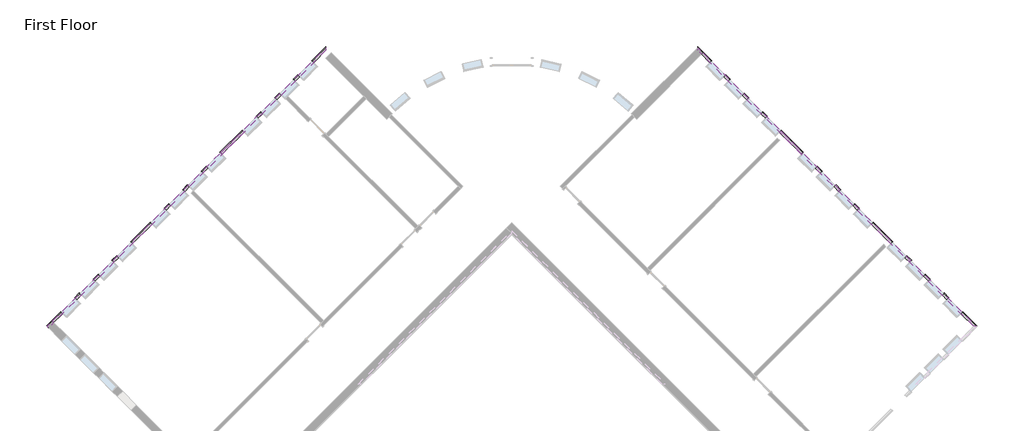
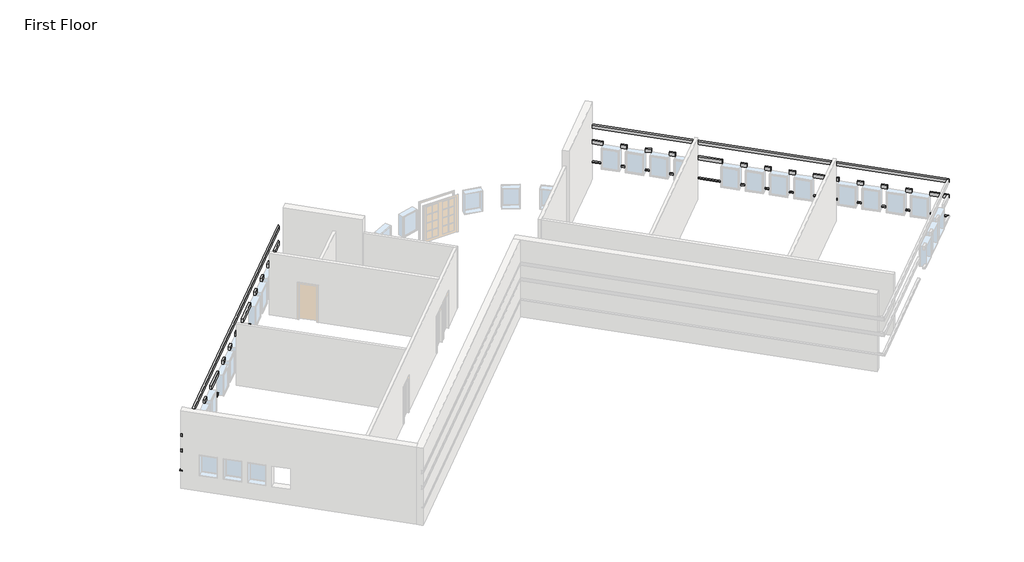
# One storey, part 3 of 3: 6 proxies.
"""IFC4 building model written with IfcOpenShell, lengths in millimetres."""

from ifc_helpers import new_model, si_unit, origin, place, context, project, spatial, faceted_brep, element, save

model = new_model("IFC4")

# Units and contexts
model_context = context("Model", 3, world=origin())
ifc_project = project(units=[si_unit("LENGTHUNIT", "METRE", prefix="MILLI")], contexts=[model_context])

# Site, building, storey
site = spatial("IfcSite", under=ifc_project)
building = spatial("IfcBuilding", under=site)
storey = spatial("IfcBuildingStorey", under=building, Name="First Floor", Elevation=0.0)

# Proxies
placement = place(None, origin())
element("IfcBuildingElementProxy", 1, Name="Wall Sweeps", at=placement, inside=storey, context=model_context, shape_type="Brep", body=[
    faceted_brep([(5753.0175119, 11443.3655905, 1085.85), (5753.0175119, 11573.5793042, 1085.85), (5753.0175119, 11622.9707129, 1041.4), (5753.0175119, 11622.9707129, 1016.0), (5753.0175119, 11443.3655905, 1016.0), (6317.415551, 10878.9675514, 1085.85), (6317.415551, 10878.9675514, 1016.0), (6382.5224079, 10944.0744083, 1016.0), (6407.2181122, 10968.7701126, 1016.0), (6407.2181122, 10968.7701126, 1041.4), (6382.5224079, 10944.0744083, 1085.85), (5937.1127624, 11259.27034, 1085.85), (5937.1127624, 11259.27034, 1016.0)], [[[0, 1, 2, 3, 4]], [[5, 6, 7, 8, 9, 10]], [[1, 0, 11, 5, 10]], [[2, 1, 10, 9]], [[3, 2, 9, 8]], [[4, 3, 8, 7, 6, 12]], [[0, 4, 12, 6, 5, 11]]]),
    faceted_brep([(6963.9939917, 10232.3891107, 1085.85), (7029.1008486, 10297.4959676, 1085.85), (7053.7965529, 10322.1916719, 1041.4), (7053.7965529, 10322.1916719, 1016.0), (7029.1008486, 10297.4959676, 1016.0), (6963.9939917, 10232.3891107, 1016.0), (7179.5201386, 10016.8629638, 1085.85), (7179.5201386, 10016.8629638, 1016.0), (7244.6269955, 10081.9698207, 1016.0), (7269.3226998, 10106.665525, 1016.0), (7269.3226998, 10106.665525, 1041.4), (7244.6269955, 10081.9698207, 1085.85)], [[[0, 1, 2, 3, 4, 5]], [[6, 7, 8, 9, 10, 11]], [[1, 0, 6, 11]], [[2, 1, 11, 10]], [[3, 2, 10, 9]], [[5, 4, 3, 9, 8, 7]], [[0, 5, 7, 6]]]),
    faceted_brep([(7826.0985793, 9370.2845231, 1085.85), (7891.2054362, 9435.39138, 1085.85), (7915.9011405, 9460.0870843, 1041.4), (7915.9011405, 9460.0870843, 1016.0), (7891.2054362, 9435.39138, 1016.0), (7826.0985793, 9370.2845231, 1016.0), (8041.6247262, 9154.7583762, 1085.85), (8041.6247262, 9154.7583762, 1016.0), (8106.7315831, 9219.8652331, 1016.0), (8131.4272874, 9244.5609374, 1016.0), (8131.4272874, 9244.5609374, 1041.4), (8106.7315831, 9219.8652331, 1085.85)], [[[0, 1, 2, 3, 4, 5]], [[6, 7, 8, 9, 10, 11]], [[1, 0, 6, 11]], [[2, 1, 11, 10]], [[3, 2, 10, 9]], [[5, 4, 3, 9, 8, 7]], [[0, 5, 7, 6]]]),
    faceted_brep([(8688.2031669, 8508.1799355, 1085.85), (8753.3100238, 8573.2867923, 1085.85), (8778.0057282, 8597.9824967, 1041.4), (8778.0057282, 8597.9824967, 1016.0), (8753.3100238, 8573.2867923, 1016.0), (8688.2031669, 8508.1799355, 1016.0), (8903.7293139, 8292.6537886, 1085.85), (8903.7293139, 8292.6537886, 1016.0), (8968.8361707, 8357.7606454, 1016.0), (8993.5318751, 8382.4563498, 1016.0), (8993.5318751, 8382.4563498, 1041.4), (8968.8361707, 8357.7606454, 1085.85)], [[[0, 1, 2, 3, 4, 5]], [[6, 7, 8, 9, 10, 11]], [[1, 0, 6, 11]], [[2, 1, 11, 10]], [[3, 2, 10, 9]], [[5, 4, 3, 9, 8, 7]], [[0, 5, 7, 6]]]),
    faceted_brep([(9550.3077546, 7646.0753478, 1085.85), (9615.4146114, 7711.1822047, 1085.85), (9640.1103158, 7735.877909, 1041.4), (9640.1103158, 7735.877909, 1016.0), (9615.4146114, 7711.1822047, 1016.0), (9550.3077546, 7646.0753478, 1016.0), (10574.7639411, 6621.6191613, 1085.85), (10574.7639411, 6621.6191613, 1016.0), (10639.870798, 6686.7260182, 1016.0), (10664.5665023, 6711.4217225, 1016.0), (10664.5665023, 6711.4217225, 1041.4), (10639.870798, 6686.7260182, 1085.85)], [[[0, 1, 2, 3, 4, 5]], [[6, 7, 8, 9, 10, 11]], [[1, 0, 6, 11]], [[2, 1, 11, 10]], [[3, 2, 10, 9]], [[5, 4, 3, 9, 8, 7]], [[0, 5, 7, 6]]]),
    faceted_brep([(11221.3423818, 5975.0407206, 1085.85), (11286.4492387, 6040.1475775, 1085.85), (11311.144943, 6064.8432818, 1041.4), (11311.144943, 6064.8432818, 1016.0), (11286.4492387, 6040.1475775, 1016.0), (11221.3423818, 5975.0407206, 1016.0), (11436.8685287, 5759.5145737, 1085.85), (11436.8685287, 5759.5145737, 1016.0), (11501.9753856, 5824.6214306, 1016.0), (11526.6710899, 5849.3171349, 1016.0), (11526.6710899, 5849.3171349, 1041.4), (11501.9753856, 5824.6214306, 1085.85)], [[[0, 1, 2, 3, 4, 5]], [[6, 7, 8, 9, 10, 11]], [[1, 0, 6, 11]], [[2, 1, 11, 10]], [[3, 2, 10, 9]], [[5, 4, 3, 9, 8, 7]], [[0, 5, 7, 6]]]),
    faceted_brep([(12083.4469694, 5112.936133, 1085.85), (12148.5538263, 5178.0429899, 1085.85), (12173.2495306, 5202.7386942, 1041.4), (12173.2495306, 5202.7386942, 1016.0), (12148.5538263, 5178.0429899, 1016.0), (12083.4469694, 5112.936133, 1016.0), (12298.9731163, 4897.4099861, 1085.85), (12298.9731163, 4897.4099861, 1016.0), (12364.0799732, 4962.516843, 1016.0), (12388.7756775, 4987.2125473, 1016.0), (12388.7756775, 4987.2125473, 1041.4), (12364.0799732, 4962.516843, 1085.85)], [[[0, 1, 2, 3, 4, 5]], [[6, 7, 8, 9, 10, 11]], [[1, 0, 6, 11]], [[2, 1, 11, 10]], [[3, 2, 10, 9]], [[5, 4, 3, 9, 8, 7]], [[0, 5, 7, 6]]]),
    faceted_brep([(12945.551557, 4250.8315454, 1085.85), (13010.6584139, 4315.9384023, 1085.85), (13035.3541182, 4340.6341066, 1041.4), (13035.3541182, 4340.6341066, 1016.0), (13010.6584139, 4315.9384023, 1016.0), (12945.551557, 4250.8315454, 1016.0), (13161.0777039, 4035.3053985, 1085.85), (13161.0777039, 4035.3053985, 1016.0), (13226.1845608, 4100.4122553, 1016.0), (13250.8802652, 4125.1079597, 1016.0), (13250.8802652, 4125.1079597, 1041.4), (13226.1845608, 4100.4122553, 1085.85)], [[[0, 1, 2, 3, 4, 5]], [[6, 7, 8, 9, 10, 11]], [[1, 0, 6, 11]], [[2, 1, 11, 10]], [[3, 2, 10, 9]], [[5, 4, 3, 9, 8, 7]], [[0, 5, 7, 6]]]),
    faceted_brep([(13807.6561447, 3388.7269578, 1085.85), (13872.7630015, 3453.8338146, 1085.85), (13897.4587059, 3478.529519, 1041.4), (13897.4587059, 3478.529519, 1016.0), (13872.7630015, 3453.8338146, 1016.0), (13807.6561447, 3388.7269578, 1016.0), (14723.1708449, 2473.2122576, 1085.85), (14723.1708449, 2473.2122576, 1016.0), (14788.2777017, 2538.3191144, 1016.0), (14812.9734061, 2563.0148188, 1016.0), (14812.9734061, 2563.0148188, 1041.4), (14788.2777017, 2538.3191144, 1085.85)], [[[0, 1, 2, 3, 4, 5]], [[6, 7, 8, 9, 10, 11]], [[1, 0, 6, 11]], [[2, 1, 11, 10]], [[3, 2, 10, 9]], [[5, 4, 3, 9, 8, 7]], [[0, 5, 7, 6]]]),
    faceted_brep([(15369.7492856, 1826.6338168, 1085.85), (15434.8561424, 1891.7406737, 1085.85), (15459.5518468, 1916.4363781, 1041.4), (15459.5518468, 1916.4363781, 1016.0), (15434.8561424, 1891.7406737, 1016.0), (15369.7492856, 1826.6338168, 1016.0), (15585.2754325, 1611.1076699, 1085.85), (15585.2754325, 1611.1076699, 1016.0), (15650.3822894, 1676.2145268, 1016.0), (15675.0779937, 1700.9102311, 1016.0), (15675.0779937, 1700.9102311, 1041.4), (15650.3822894, 1676.2145268, 1085.85)], [[[0, 1, 2, 3, 4, 5]], [[6, 7, 8, 9, 10, 11]], [[1, 0, 6, 11]], [[2, 1, 11, 10]], [[3, 2, 10, 9]], [[5, 4, 3, 9, 8, 7]], [[0, 5, 7, 6]]]),
    faceted_brep([(16231.8538732, 964.5292292, 1085.85), (16296.9607301, 1029.6360861, 1085.85), (16321.6564344, 1054.3317904, 1041.4), (16321.6564344, 1054.3317904, 1016.0), (16296.9607301, 1029.6360861, 1016.0), (16231.8538732, 964.5292292, 1016.0), (16447.3800201, 749.0030823, 1085.85), (16447.3800201, 749.0030823, 1016.0), (16512.486877, 814.1099392, 1016.0), (16537.1825813, 838.8056435, 1016.0), (16537.1825813, 838.8056435, 1041.4), (16512.486877, 814.1099392, 1085.85)], [[[0, 1, 2, 3, 4, 5]], [[6, 7, 8, 9, 10, 11]], [[1, 0, 6, 11]], [[2, 1, 11, 10]], [[3, 2, 10, 9]], [[5, 4, 3, 9, 8, 7]], [[0, 5, 7, 6]]]),
    faceted_brep([(17093.9584608, 102.4246416, 1085.85), (17159.0653177, 167.5314985, 1085.85), (17183.761022, 192.2272028, 1041.4), (17183.761022, 192.2272028, 1016.0), (17159.0653177, 167.5314985, 1016.0), (17093.9584608, 102.4246416, 1016.0), (17309.4846077, -113.1015053, 1085.85), (17309.4846077, -113.1015053, 1016.0), (17374.5914646, -47.9946484, 1016.0), (17399.2871689, -23.2989441, 1016.0), (17399.2871689, -23.2989441, 1041.4), (17374.5914646, -47.9946484, 1085.85)], [[[0, 1, 2, 3, 4, 5]], [[6, 7, 8, 9, 10, 11]], [[1, 0, 6, 11]], [[2, 1, 11, 10]], [[3, 2, 10, 9]], [[5, 4, 3, 9, 8, 7]], [[0, 5, 7, 6]]]),
    faceted_brep([(17956.0630484, -759.679946, 1085.85), (18021.1699053, -694.5730891, 1085.85), (18045.8656096, -669.8773848, 1041.4), (18045.8656096, -669.8773848, 1016.0), (18021.1699053, -694.5730891, 1016.0), (17956.0630484, -759.679946, 1016.0), (18554.3726125, -1357.9895101, 1085.85), (18554.3726125, -1357.9895101, 1016.0), (18733.9777349, -1357.9895101, 1016.0), (18733.9777349, -1357.9895101, 1041.4), (18684.5863263, -1357.9895101, 1085.85)], [[[0, 1, 2, 3, 4, 5]], [[6, 7, 8, 9, 10]], [[1, 0, 6, 10]], [[2, 1, 10, 9]], [[3, 2, 9, 8]], [[5, 4, 3, 8, 7]], [[0, 5, 7, 6]]]),
])
element("IfcBuildingElementProxy", 2, Name="Wall Sweeps", at=placement, inside=storey, context=model_context, shape_type="Brep", body=[
    faceted_brep([(5753.0175119, 11573.5793042, 2336.8), (5753.0175119, 11573.5793042, 2133.6), (5753.0175119, 11443.3655905, 2133.6), (5753.0175119, 11443.3655905, 2336.8), (6382.5224079, 10944.0744083, 2336.8), (6317.415551, 10878.9675514, 2336.8), (6317.415551, 10878.9675514, 2133.6), (6382.5224079, 10944.0744083, 2133.6), (6002.2196193, 11324.3771969, 2336.8), (6002.2196193, 11324.3771969, 2133.6), (5937.1127624, 11259.27034, 2133.6), (5937.1127624, 11259.27034, 2336.8)], [[[0, 1, 2, 3]], [[4, 5, 6, 7]], [[1, 0, 8, 4, 7, 9]], [[2, 1, 9, 7, 6, 10]], [[3, 2, 10, 6, 5, 11]], [[0, 3, 11, 5, 4, 8]]]),
    faceted_brep([(7029.1008486, 10297.4959676, 2336.8), (7029.1008486, 10297.4959676, 2133.6), (6963.9939917, 10232.3891107, 2133.6), (6963.9939917, 10232.3891107, 2336.8), (7244.6269955, 10081.9698207, 2336.8), (7179.5201386, 10016.8629638, 2336.8), (7179.5201386, 10016.8629638, 2133.6), (7244.6269955, 10081.9698207, 2133.6)], [[[0, 1, 2, 3]], [[4, 5, 6, 7]], [[1, 0, 4, 7]], [[2, 1, 7, 6]], [[3, 2, 6, 5]], [[0, 3, 5, 4]]]),
    faceted_brep([(7891.2054362, 9435.39138, 2336.8), (7891.2054362, 9435.39138, 2133.6), (7826.0985793, 9370.2845231, 2133.6), (7826.0985793, 9370.2845231, 2336.8), (8106.7315831, 9219.8652331, 2336.8), (8041.6247262, 9154.7583762, 2336.8), (8041.6247262, 9154.7583762, 2133.6), (8106.7315831, 9219.8652331, 2133.6)], [[[0, 1, 2, 3]], [[4, 5, 6, 7]], [[1, 0, 4, 7]], [[2, 1, 7, 6]], [[3, 2, 6, 5]], [[0, 3, 5, 4]]]),
    faceted_brep([(8753.3100238, 8573.2867923, 2336.8), (8753.3100238, 8573.2867923, 2133.6), (8688.2031669, 8508.1799355, 2133.6), (8688.2031669, 8508.1799355, 2336.8), (8968.8361707, 8357.7606454, 2336.8), (8903.7293139, 8292.6537886, 2336.8), (8903.7293139, 8292.6537886, 2133.6), (8968.8361707, 8357.7606454, 2133.6)], [[[0, 1, 2, 3]], [[4, 5, 6, 7]], [[1, 0, 4, 7]], [[2, 1, 7, 6]], [[3, 2, 6, 5]], [[0, 3, 5, 4]]]),
    faceted_brep([(9615.4146114, 7711.1822047, 2336.8), (9615.4146114, 7711.1822047, 2133.6), (9550.3077546, 7646.0753478, 2133.6), (9550.3077546, 7646.0753478, 2336.8), (10639.870798, 6686.7260182, 2336.8), (10574.7639411, 6621.6191613, 2336.8), (10574.7639411, 6621.6191613, 2133.6), (10639.870798, 6686.7260182, 2133.6)], [[[0, 1, 2, 3]], [[4, 5, 6, 7]], [[1, 0, 4, 7]], [[2, 1, 7, 6]], [[3, 2, 6, 5]], [[0, 3, 5, 4]]]),
    faceted_brep([(11286.4492387, 6040.1475775, 2336.8), (11286.4492387, 6040.1475775, 2133.6), (11221.3423818, 5975.0407206, 2133.6), (11221.3423818, 5975.0407206, 2336.8), (11501.9753856, 5824.6214306, 2336.8), (11436.8685287, 5759.5145737, 2336.8), (11436.8685287, 5759.5145737, 2133.6), (11501.9753856, 5824.6214306, 2133.6)], [[[0, 1, 2, 3]], [[4, 5, 6, 7]], [[1, 0, 4, 7]], [[2, 1, 7, 6]], [[3, 2, 6, 5]], [[0, 3, 5, 4]]]),
    faceted_brep([(12148.5538263, 5178.0429899, 2336.8), (12148.5538263, 5178.0429899, 2133.6), (12083.4469694, 5112.936133, 2133.6), (12083.4469694, 5112.936133, 2336.8), (12364.0799732, 4962.516843, 2336.8), (12298.9731163, 4897.4099861, 2336.8), (12298.9731163, 4897.4099861, 2133.6), (12364.0799732, 4962.516843, 2133.6)], [[[0, 1, 2, 3]], [[4, 5, 6, 7]], [[1, 0, 4, 7]], [[2, 1, 7, 6]], [[3, 2, 6, 5]], [[0, 3, 5, 4]]]),
    faceted_brep([(13010.6584139, 4315.9384023, 2336.8), (13010.6584139, 4315.9384023, 2133.6), (12945.551557, 4250.8315454, 2133.6), (12945.551557, 4250.8315454, 2336.8), (13226.1845608, 4100.4122553, 2336.8), (13161.0777039, 4035.3053985, 2336.8), (13161.0777039, 4035.3053985, 2133.6), (13226.1845608, 4100.4122553, 2133.6)], [[[0, 1, 2, 3]], [[4, 5, 6, 7]], [[1, 0, 4, 7]], [[2, 1, 7, 6]], [[3, 2, 6, 5]], [[0, 3, 5, 4]]]),
    faceted_brep([(13872.7630015, 3453.8338146, 2336.8), (13872.7630015, 3453.8338146, 2133.6), (13807.6561447, 3388.7269578, 2133.6), (13807.6561447, 3388.7269578, 2336.8), (14788.2777017, 2538.3191144, 2336.8), (14723.1708449, 2473.2122576, 2336.8), (14723.1708449, 2473.2122576, 2133.6), (14788.2777017, 2538.3191144, 2133.6)], [[[0, 1, 2, 3]], [[4, 5, 6, 7]], [[1, 0, 4, 7]], [[2, 1, 7, 6]], [[3, 2, 6, 5]], [[0, 3, 5, 4]]]),
    faceted_brep([(15434.8561424, 1891.7406737, 2336.8), (15434.8561424, 1891.7406737, 2133.6), (15369.7492856, 1826.6338168, 2133.6), (15369.7492856, 1826.6338168, 2336.8), (15650.3822894, 1676.2145268, 2336.8), (15585.2754325, 1611.1076699, 2336.8), (15585.2754325, 1611.1076699, 2133.6), (15650.3822894, 1676.2145268, 2133.6)], [[[0, 1, 2, 3]], [[4, 5, 6, 7]], [[1, 0, 4, 7]], [[2, 1, 7, 6]], [[3, 2, 6, 5]], [[0, 3, 5, 4]]]),
    faceted_brep([(16296.9607301, 1029.6360861, 2336.8), (16296.9607301, 1029.6360861, 2133.6), (16231.8538732, 964.5292292, 2133.6), (16231.8538732, 964.5292292, 2336.8), (16512.486877, 814.1099392, 2336.8), (16447.3800201, 749.0030823, 2336.8), (16447.3800201, 749.0030823, 2133.6), (16512.486877, 814.1099392, 2133.6)], [[[0, 1, 2, 3]], [[4, 5, 6, 7]], [[1, 0, 4, 7]], [[2, 1, 7, 6]], [[3, 2, 6, 5]], [[0, 3, 5, 4]]]),
    faceted_brep([(17159.0653177, 167.5314985, 2336.8), (17159.0653177, 167.5314985, 2133.6), (17093.9584608, 102.4246416, 2133.6), (17093.9584608, 102.4246416, 2336.8), (17374.5914646, -47.9946484, 2336.8), (17309.4846077, -113.1015053, 2336.8), (17309.4846077, -113.1015053, 2133.6), (17374.5914646, -47.9946484, 2133.6)], [[[0, 1, 2, 3]], [[4, 5, 6, 7]], [[1, 0, 4, 7]], [[2, 1, 7, 6]], [[3, 2, 6, 5]], [[0, 3, 5, 4]]]),
    faceted_brep([(18021.1699053, -694.5730891, 2336.8), (18021.1699053, -694.5730891, 2133.6), (17956.0630484, -759.679946, 2133.6), (17956.0630484, -759.679946, 2336.8), (18684.5863263, -1357.9895101, 2336.8), (18554.3726125, -1357.9895101, 2336.8), (18554.3726125, -1357.9895101, 2133.6), (18684.5863263, -1357.9895101, 2133.6)], [[[0, 1, 2, 3]], [[4, 5, 6, 7]], [[1, 0, 4, 7]], [[2, 1, 7, 6]], [[3, 2, 6, 5]], [[0, 3, 5, 4]]]),
])
element("IfcBuildingElementProxy", 3, Name="Wall Sweeps", at=placement, inside=storey, context=model_context, shape_type="Brep", body=[
    faceted_brep([(5753.0175119, 11573.5793042, 3251.2), (5753.0175119, 11573.5793042, 3048.0), (5753.0175119, 11443.3655905, 3048.0), (5753.0175119, 11443.3655905, 3251.2), (18684.5863263, -1357.9895101, 3251.2), (18554.3726125, -1357.9895101, 3251.2), (18554.3726125, -1357.9895101, 3048.0), (18684.5863263, -1357.9895101, 3048.0), (6002.2196193, 11324.3771969, 3251.2), (6002.2196193, 11324.3771969, 3048.0), (5937.1127624, 11259.27034, 3048.0), (5937.1127624, 11259.27034, 3251.2)], [[[0, 1, 2, 3]], [[4, 5, 6, 7]], [[1, 0, 8, 4, 7, 9]], [[2, 1, 9, 7, 6, 10]], [[3, 2, 10, 6, 5, 11]], [[0, 3, 11, 5, 4, 8]]]),
])
element("IfcBuildingElementProxy", 4, Name="Wall Sweeps", at=placement, inside=storey, context=model_context, shape_type="Brep", body=[
    faceted_brep([(-24355.536198, -1423.096367, 1085.85), (-24420.6430549, -1357.9895101, 1085.85), (-24445.3387592, -1333.2938058, 1041.4), (-24445.3387592, -1333.2938058, 1016.0), (-24355.536198, -1423.096367, 1016.0), (-23692.119777, -759.679946, 1085.85), (-23692.119777, -759.679946, 1016.0), (-23757.2266339, -694.5730891, 1016.0), (-23781.9223383, -669.8773848, 1016.0), (-23781.9223383, -669.8773848, 1041.4), (-23757.2266339, -694.5730891, 1085.85), (-24106.3340906, -1173.8942596, 1085.85), (-24106.3340906, -1173.8942596, 1016.0)], [[[0, 1, 2, 3, 4]], [[5, 6, 7, 8, 9, 10]], [[1, 0, 11, 5, 10]], [[2, 1, 10, 9]], [[3, 2, 9, 8]], [[4, 3, 8, 7, 6, 12]], [[0, 4, 12, 6, 5, 11]]]),
    faceted_brep([(-23045.5413363, -113.1015053, 1085.85), (-23110.6481932, -47.9946484, 1085.85), (-23135.3438975, -23.2989441, 1041.4), (-23135.3438975, -23.2989441, 1016.0), (-23110.6481932, -47.9946484, 1016.0), (-23045.5413363, -113.1015053, 1016.0), (-22830.0151894, 102.4246416, 1085.85), (-22830.0151894, 102.4246416, 1016.0), (-22895.1220463, 167.5314985, 1016.0), (-22919.8177506, 192.2272028, 1016.0), (-22919.8177506, 192.2272028, 1041.4), (-22895.1220463, 167.5314985, 1085.85)], [[[0, 1, 2, 3, 4, 5]], [[6, 7, 8, 9, 10, 11]], [[1, 0, 6, 11]], [[2, 1, 11, 10]], [[3, 2, 10, 9]], [[5, 4, 3, 9, 8, 7]], [[0, 5, 7, 6]]]),
    faceted_brep([(-22183.4367487, 749.0030823, 1085.85), (-22248.5436056, 814.1099392, 1085.85), (-22273.2393099, 838.8056435, 1041.4), (-22273.2393099, 838.8056435, 1016.0), (-22248.5436056, 814.1099392, 1016.0), (-22183.4367487, 749.0030823, 1016.0), (-21967.9106018, 964.5292292, 1085.85), (-21967.9106018, 964.5292292, 1016.0), (-22033.0174587, 1029.6360861, 1016.0), (-22057.713163, 1054.3317904, 1016.0), (-22057.713163, 1054.3317904, 1041.4), (-22033.0174587, 1029.6360861, 1085.85)], [[[0, 1, 2, 3, 4, 5]], [[6, 7, 8, 9, 10, 11]], [[1, 0, 6, 11]], [[2, 1, 11, 10]], [[3, 2, 10, 9]], [[5, 4, 3, 9, 8, 7]], [[0, 5, 7, 6]]]),
    faceted_brep([(-21321.3321611, 1611.1076699, 1085.85), (-21386.439018, 1676.2145268, 1085.85), (-21411.1347223, 1700.9102311, 1041.4), (-21411.1347223, 1700.9102311, 1016.0), (-21386.439018, 1676.2145268, 1016.0), (-21321.3321611, 1611.1076699, 1016.0), (-21105.8060142, 1826.6338168, 1085.85), (-21105.8060142, 1826.6338168, 1016.0), (-21170.9128711, 1891.7406737, 1016.0), (-21195.6085754, 1916.4363781, 1016.0), (-21195.6085754, 1916.4363781, 1041.4), (-21170.9128711, 1891.7406737, 1085.85)], [[[0, 1, 2, 3, 4, 5]], [[6, 7, 8, 9, 10, 11]], [[1, 0, 6, 11]], [[2, 1, 11, 10]], [[3, 2, 10, 9]], [[5, 4, 3, 9, 8, 7]], [[0, 5, 7, 6]]]),
    faceted_brep([(-20459.2275735, 2473.2122576, 1085.85), (-20524.3344303, 2538.3191144, 1085.85), (-20549.0301347, 2563.0148188, 1041.4), (-20549.0301347, 2563.0148188, 1016.0), (-20524.3344303, 2538.3191144, 1016.0), (-20459.2275735, 2473.2122576, 1016.0), (-19543.7128733, 3388.7269578, 1085.85), (-19543.7128733, 3388.7269578, 1016.0), (-19608.8197301, 3453.8338146, 1016.0), (-19633.5154345, 3478.529519, 1016.0), (-19633.5154345, 3478.529519, 1041.4), (-19608.8197301, 3453.8338146, 1085.85)], [[[0, 1, 2, 3, 4, 5]], [[6, 7, 8, 9, 10, 11]], [[1, 0, 6, 11]], [[2, 1, 11, 10]], [[3, 2, 10, 9]], [[5, 4, 3, 9, 8, 7]], [[0, 5, 7, 6]]]),
    faceted_brep([(-18897.1344326, 4035.3053985, 1085.85), (-18962.2412894, 4100.4122553, 1085.85), (-18986.9369938, 4125.1079597, 1041.4), (-18986.9369938, 4125.1079597, 1016.0), (-18962.2412894, 4100.4122553, 1016.0), (-18897.1344326, 4035.3053985, 1016.0), (-18681.6082856, 4250.8315454, 1085.85), (-18681.6082856, 4250.8315454, 1016.0), (-18746.7151425, 4315.9384023, 1016.0), (-18771.4108469, 4340.6341066, 1016.0), (-18771.4108469, 4340.6341066, 1041.4), (-18746.7151425, 4315.9384023, 1085.85)], [[[0, 1, 2, 3, 4, 5]], [[6, 7, 8, 9, 10, 11]], [[1, 0, 6, 11]], [[2, 1, 11, 10]], [[3, 2, 10, 9]], [[5, 4, 3, 9, 8, 7]], [[0, 5, 7, 6]]]),
    faceted_brep([(-18035.0298449, 4897.4099861, 1085.85), (-18100.1367018, 4962.516843, 1085.85), (-18124.8324061, 4987.2125473, 1041.4), (-18124.8324061, 4987.2125473, 1016.0), (-18100.1367018, 4962.516843, 1016.0), (-18035.0298449, 4897.4099861, 1016.0), (-17819.503698, 5112.936133, 1085.85), (-17819.503698, 5112.936133, 1016.0), (-17884.6105549, 5178.0429899, 1016.0), (-17909.3062592, 5202.7386942, 1016.0), (-17909.3062592, 5202.7386942, 1041.4), (-17884.6105549, 5178.0429899, 1085.85)], [[[0, 1, 2, 3, 4, 5]], [[6, 7, 8, 9, 10, 11]], [[1, 0, 6, 11]], [[2, 1, 11, 10]], [[3, 2, 10, 9]], [[5, 4, 3, 9, 8, 7]], [[0, 5, 7, 6]]]),
    faceted_brep([(-17172.9252573, 5759.5145737, 1085.85), (-17238.0321142, 5824.6214306, 1085.85), (-17262.7278185, 5849.3171349, 1041.4), (-17262.7278185, 5849.3171349, 1016.0), (-17238.0321142, 5824.6214306, 1016.0), (-17172.9252573, 5759.5145737, 1016.0), (-16957.3991104, 5975.0407206, 1085.85), (-16957.3991104, 5975.0407206, 1016.0), (-17022.5059673, 6040.1475775, 1016.0), (-17047.2016716, 6064.8432818, 1016.0), (-17047.2016716, 6064.8432818, 1041.4), (-17022.5059673, 6040.1475775, 1085.85)], [[[0, 1, 2, 3, 4, 5]], [[6, 7, 8, 9, 10, 11]], [[1, 0, 6, 11]], [[2, 1, 11, 10]], [[3, 2, 10, 9]], [[5, 4, 3, 9, 8, 7]], [[0, 5, 7, 6]]]),
    faceted_brep([(-16310.8206697, 6621.6191613, 1085.85), (-16375.9275266, 6686.7260182, 1085.85), (-16400.6232309, 6711.4217225, 1041.4), (-16400.6232309, 6711.4217225, 1016.0), (-16375.9275266, 6686.7260182, 1016.0), (-16310.8206697, 6621.6191613, 1016.0), (-15286.3644832, 7646.0753478, 1085.85), (-15286.3644832, 7646.0753478, 1016.0), (-15351.4713401, 7711.1822047, 1016.0), (-15376.1670444, 7735.877909, 1016.0), (-15376.1670444, 7735.877909, 1041.4), (-15351.4713401, 7711.1822047, 1085.85)], [[[0, 1, 2, 3, 4, 5]], [[6, 7, 8, 9, 10, 11]], [[1, 0, 6, 11]], [[2, 1, 11, 10]], [[3, 2, 10, 9]], [[5, 4, 3, 9, 8, 7]], [[0, 5, 7, 6]]]),
    faceted_brep([(-14639.7860425, 8292.6537886, 1085.85), (-14704.8928993, 8357.7606454, 1085.85), (-14729.5886037, 8382.4563498, 1041.4), (-14729.5886037, 8382.4563498, 1016.0), (-14704.8928993, 8357.7606454, 1016.0), (-14639.7860425, 8292.6537886, 1016.0), (-14424.2598956, 8508.1799355, 1085.85), (-14424.2598956, 8508.1799355, 1016.0), (-14489.3667524, 8573.2867923, 1016.0), (-14514.0624568, 8597.9824967, 1016.0), (-14514.0624568, 8597.9824967, 1041.4), (-14489.3667524, 8573.2867923, 1085.85)], [[[0, 1, 2, 3, 4, 5]], [[6, 7, 8, 9, 10, 11]], [[1, 0, 6, 11]], [[2, 1, 11, 10]], [[3, 2, 10, 9]], [[5, 4, 3, 9, 8, 7]], [[0, 5, 7, 6]]]),
    faceted_brep([(-13777.6814548, 9154.7583762, 1085.85), (-13842.7883117, 9219.8652331, 1085.85), (-13867.4840161, 9244.5609374, 1041.4), (-13867.4840161, 9244.5609374, 1016.0), (-13842.7883117, 9219.8652331, 1016.0), (-13777.6814548, 9154.7583762, 1016.0), (-13562.1553079, 9370.2845231, 1085.85), (-13562.1553079, 9370.2845231, 1016.0), (-13627.2621648, 9435.39138, 1016.0), (-13651.9578691, 9460.0870843, 1016.0), (-13651.9578691, 9460.0870843, 1041.4), (-13627.2621648, 9435.39138, 1085.85)], [[[0, 1, 2, 3, 4, 5]], [[6, 7, 8, 9, 10, 11]], [[1, 0, 6, 11]], [[2, 1, 11, 10]], [[3, 2, 10, 9]], [[5, 4, 3, 9, 8, 7]], [[0, 5, 7, 6]]]),
    faceted_brep([(-12915.5768672, 10016.8629638, 1085.85), (-12980.6837241, 10081.9698207, 1085.85), (-13005.3794284, 10106.665525, 1041.4), (-13005.3794284, 10106.665525, 1016.0), (-12980.6837241, 10081.9698207, 1016.0), (-12915.5768672, 10016.8629638, 1016.0), (-12700.0507203, 10232.3891107, 1085.85), (-12700.0507203, 10232.3891107, 1016.0), (-12765.1575772, 10297.4959676, 1016.0), (-12789.8532815, 10322.1916719, 1016.0), (-12789.8532815, 10322.1916719, 1041.4), (-12765.1575772, 10297.4959676, 1085.85)], [[[0, 1, 2, 3, 4, 5]], [[6, 7, 8, 9, 10, 11]], [[1, 0, 6, 11]], [[2, 1, 11, 10]], [[3, 2, 10, 9]], [[5, 4, 3, 9, 8, 7]], [[0, 5, 7, 6]]]),
    faceted_brep([(-12053.4722796, 10878.9675514, 1085.85), (-12118.5791365, 10944.0744083, 1085.85), (-12143.2748408, 10968.7701126, 1041.4), (-12143.2748408, 10968.7701126, 1016.0), (-12118.5791365, 10944.0744083, 1016.0), (-12053.4722796, 10878.9675514, 1016.0), (-11489.0742405, 11443.3655905, 1085.85), (-11489.0742405, 11443.3655905, 1016.0), (-11489.0742405, 11622.9707129, 1016.0), (-11489.0742405, 11622.9707129, 1041.4), (-11489.0742405, 11573.5793042, 1085.85)], [[[0, 1, 2, 3, 4, 5]], [[6, 7, 8, 9, 10]], [[1, 0, 6, 10]], [[2, 1, 10, 9]], [[3, 2, 9, 8]], [[5, 4, 3, 8, 7]], [[0, 5, 7, 6]]]),
])
element("IfcBuildingElementProxy", 5, Name="Wall Sweeps", at=placement, inside=storey, context=model_context, shape_type="Brep", body=[
    faceted_brep([(-24420.6430549, -1357.9895101, 2336.8), (-24420.6430549, -1357.9895101, 2133.6), (-24355.536198, -1423.096367, 2133.6), (-24355.536198, -1423.096367, 2336.8), (-23757.2266339, -694.5730891, 2336.8), (-23692.119777, -759.679946, 2336.8), (-23692.119777, -759.679946, 2133.6), (-23757.2266339, -694.5730891, 2133.6), (-24171.4409475, -1108.7874027, 2336.8), (-24171.4409475, -1108.7874027, 2133.6), (-24106.3340906, -1173.8942596, 2133.6), (-24106.3340906, -1173.8942596, 2336.8)], [[[0, 1, 2, 3]], [[4, 5, 6, 7]], [[1, 0, 8, 4, 7, 9]], [[2, 1, 9, 7, 6, 10]], [[3, 2, 10, 6, 5, 11]], [[0, 3, 11, 5, 4, 8]]]),
    faceted_brep([(-23110.6481932, -47.9946484, 2336.8), (-23110.6481932, -47.9946484, 2133.6), (-23045.5413363, -113.1015053, 2133.6), (-23045.5413363, -113.1015053, 2336.8), (-22895.1220463, 167.5314985, 2336.8), (-22830.0151894, 102.4246416, 2336.8), (-22830.0151894, 102.4246416, 2133.6), (-22895.1220463, 167.5314985, 2133.6)], [[[0, 1, 2, 3]], [[4, 5, 6, 7]], [[1, 0, 4, 7]], [[2, 1, 7, 6]], [[3, 2, 6, 5]], [[0, 3, 5, 4]]]),
    faceted_brep([(-22248.5436056, 814.1099392, 2336.8), (-22248.5436056, 814.1099392, 2133.6), (-22183.4367487, 749.0030823, 2133.6), (-22183.4367487, 749.0030823, 2336.8), (-22033.0174587, 1029.6360861, 2336.8), (-21967.9106018, 964.5292292, 2336.8), (-21967.9106018, 964.5292292, 2133.6), (-22033.0174587, 1029.6360861, 2133.6)], [[[0, 1, 2, 3]], [[4, 5, 6, 7]], [[1, 0, 4, 7]], [[2, 1, 7, 6]], [[3, 2, 6, 5]], [[0, 3, 5, 4]]]),
    faceted_brep([(-21386.439018, 1676.2145268, 2336.8), (-21386.439018, 1676.2145268, 2133.6), (-21321.3321611, 1611.1076699, 2133.6), (-21321.3321611, 1611.1076699, 2336.8), (-21170.9128711, 1891.7406737, 2336.8), (-21105.8060142, 1826.6338168, 2336.8), (-21105.8060142, 1826.6338168, 2133.6), (-21170.9128711, 1891.7406737, 2133.6)], [[[0, 1, 2, 3]], [[4, 5, 6, 7]], [[1, 0, 4, 7]], [[2, 1, 7, 6]], [[3, 2, 6, 5]], [[0, 3, 5, 4]]]),
    faceted_brep([(-20524.3344303, 2538.3191144, 2336.8), (-20524.3344303, 2538.3191144, 2133.6), (-20459.2275735, 2473.2122576, 2133.6), (-20459.2275735, 2473.2122576, 2336.8), (-19608.8197301, 3453.8338146, 2336.8), (-19543.7128733, 3388.7269578, 2336.8), (-19543.7128733, 3388.7269578, 2133.6), (-19608.8197301, 3453.8338146, 2133.6)], [[[0, 1, 2, 3]], [[4, 5, 6, 7]], [[1, 0, 4, 7]], [[2, 1, 7, 6]], [[3, 2, 6, 5]], [[0, 3, 5, 4]]]),
    faceted_brep([(-18962.2412894, 4100.4122553, 2336.8), (-18962.2412894, 4100.4122553, 2133.6), (-18897.1344326, 4035.3053985, 2133.6), (-18897.1344326, 4035.3053985, 2336.8), (-18746.7151425, 4315.9384023, 2336.8), (-18681.6082856, 4250.8315454, 2336.8), (-18681.6082856, 4250.8315454, 2133.6), (-18746.7151425, 4315.9384023, 2133.6)], [[[0, 1, 2, 3]], [[4, 5, 6, 7]], [[1, 0, 4, 7]], [[2, 1, 7, 6]], [[3, 2, 6, 5]], [[0, 3, 5, 4]]]),
    faceted_brep([(-18100.1367018, 4962.516843, 2336.8), (-18100.1367018, 4962.516843, 2133.6), (-18035.0298449, 4897.4099861, 2133.6), (-18035.0298449, 4897.4099861, 2336.8), (-17884.6105549, 5178.0429899, 2336.8), (-17819.503698, 5112.936133, 2336.8), (-17819.503698, 5112.936133, 2133.6), (-17884.6105549, 5178.0429899, 2133.6)], [[[0, 1, 2, 3]], [[4, 5, 6, 7]], [[1, 0, 4, 7]], [[2, 1, 7, 6]], [[3, 2, 6, 5]], [[0, 3, 5, 4]]]),
    faceted_brep([(-17238.0321142, 5824.6214306, 2336.8), (-17238.0321142, 5824.6214306, 2133.6), (-17172.9252573, 5759.5145737, 2133.6), (-17172.9252573, 5759.5145737, 2336.8), (-17022.5059673, 6040.1475775, 2336.8), (-16957.3991104, 5975.0407206, 2336.8), (-16957.3991104, 5975.0407206, 2133.6), (-17022.5059673, 6040.1475775, 2133.6)], [[[0, 1, 2, 3]], [[4, 5, 6, 7]], [[1, 0, 4, 7]], [[2, 1, 7, 6]], [[3, 2, 6, 5]], [[0, 3, 5, 4]]]),
    faceted_brep([(-16375.9275266, 6686.7260182, 2336.8), (-16375.9275266, 6686.7260182, 2133.6), (-16310.8206697, 6621.6191613, 2133.6), (-16310.8206697, 6621.6191613, 2336.8), (-15351.4713401, 7711.1822047, 2336.8), (-15286.3644832, 7646.0753478, 2336.8), (-15286.3644832, 7646.0753478, 2133.6), (-15351.4713401, 7711.1822047, 2133.6)], [[[0, 1, 2, 3]], [[4, 5, 6, 7]], [[1, 0, 4, 7]], [[2, 1, 7, 6]], [[3, 2, 6, 5]], [[0, 3, 5, 4]]]),
    faceted_brep([(-14704.8928993, 8357.7606454, 2336.8), (-14704.8928993, 8357.7606454, 2133.6), (-14639.7860425, 8292.6537886, 2133.6), (-14639.7860425, 8292.6537886, 2336.8), (-14489.3667524, 8573.2867923, 2336.8), (-14424.2598956, 8508.1799355, 2336.8), (-14424.2598956, 8508.1799355, 2133.6), (-14489.3667524, 8573.2867923, 2133.6)], [[[0, 1, 2, 3]], [[4, 5, 6, 7]], [[1, 0, 4, 7]], [[2, 1, 7, 6]], [[3, 2, 6, 5]], [[0, 3, 5, 4]]]),
    faceted_brep([(-13842.7883117, 9219.8652331, 2336.8), (-13842.7883117, 9219.8652331, 2133.6), (-13777.6814548, 9154.7583762, 2133.6), (-13777.6814548, 9154.7583762, 2336.8), (-13627.2621648, 9435.39138, 2336.8), (-13562.1553079, 9370.2845231, 2336.8), (-13562.1553079, 9370.2845231, 2133.6), (-13627.2621648, 9435.39138, 2133.6)], [[[0, 1, 2, 3]], [[4, 5, 6, 7]], [[1, 0, 4, 7]], [[2, 1, 7, 6]], [[3, 2, 6, 5]], [[0, 3, 5, 4]]]),
    faceted_brep([(-12980.6837241, 10081.9698207, 2336.8), (-12980.6837241, 10081.9698207, 2133.6), (-12915.5768672, 10016.8629638, 2133.6), (-12915.5768672, 10016.8629638, 2336.8), (-12765.1575772, 10297.4959676, 2336.8), (-12700.0507203, 10232.3891107, 2336.8), (-12700.0507203, 10232.3891107, 2133.6), (-12765.1575772, 10297.4959676, 2133.6)], [[[0, 1, 2, 3]], [[4, 5, 6, 7]], [[1, 0, 4, 7]], [[2, 1, 7, 6]], [[3, 2, 6, 5]], [[0, 3, 5, 4]]]),
    faceted_brep([(-12118.5791365, 10944.0744083, 2336.8), (-12118.5791365, 10944.0744083, 2133.6), (-12053.4722796, 10878.9675514, 2133.6), (-12053.4722796, 10878.9675514, 2336.8), (-11489.0742405, 11573.5793042, 2336.8), (-11489.0742405, 11443.3655905, 2336.8), (-11489.0742405, 11443.3655905, 2133.6), (-11489.0742405, 11573.5793042, 2133.6)], [[[0, 1, 2, 3]], [[4, 5, 6, 7]], [[1, 0, 4, 7]], [[2, 1, 7, 6]], [[3, 2, 6, 5]], [[0, 3, 5, 4]]]),
])
element("IfcBuildingElementProxy", 6, Name="Wall Sweeps", at=placement, inside=storey, context=model_context, shape_type="Brep", body=[
    faceted_brep([(-24420.6430549, -1357.9895101, 3251.2), (-24420.6430549, -1357.9895101, 3048.0), (-24355.536198, -1423.096367, 3048.0), (-24355.536198, -1423.096367, 3251.2), (-11489.0742405, 11573.5793042, 3251.2), (-11489.0742405, 11443.3655905, 3251.2), (-11489.0742405, 11443.3655905, 3048.0), (-11489.0742405, 11573.5793042, 3048.0), (-24171.4409475, -1108.7874027, 3251.2), (-24171.4409475, -1108.7874027, 3048.0), (-24106.3340906, -1173.8942596, 3048.0), (-24106.3340906, -1173.8942596, 3251.2)], [[[0, 1, 2, 3]], [[4, 5, 6, 7]], [[1, 0, 8, 4, 7, 9]], [[2, 1, 9, 7, 6, 10]], [[3, 2, 10, 6, 5, 11]], [[0, 3, 11, 5, 4, 8]]]),
])

save(model, "model.ifc")
